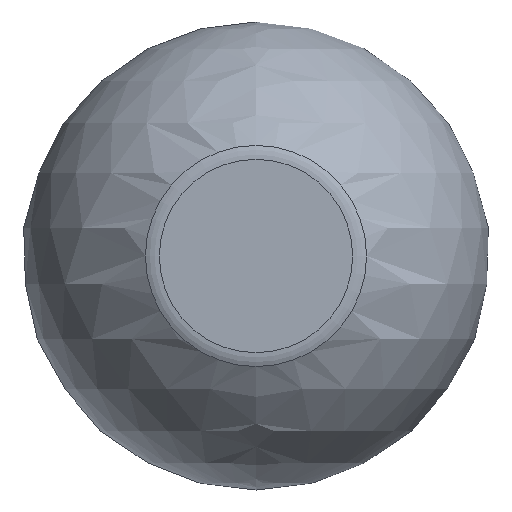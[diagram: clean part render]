
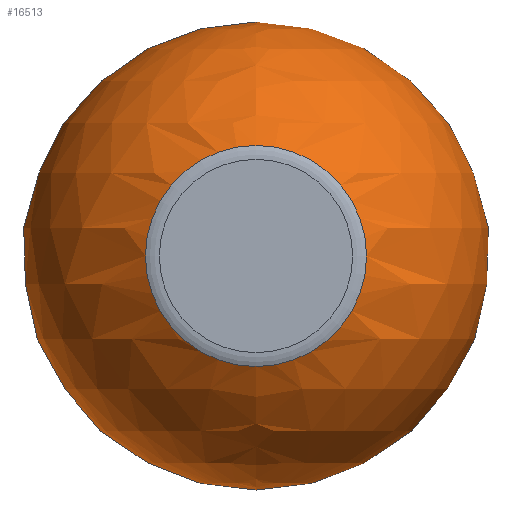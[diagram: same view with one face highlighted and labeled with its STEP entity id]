
A CAD part, left-side view. The second image highlights one B-rep face of the part: STEP entity #16513.
In plain terms, the highlighted spherical face has radius 12.179 mm.
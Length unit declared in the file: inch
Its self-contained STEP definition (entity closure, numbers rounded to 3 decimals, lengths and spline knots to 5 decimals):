
#1413=SPHERICAL_SURFACE('',#17562,0.4795);
#1536=FACE_BOUND('',#3004,.T.);
#2049=FACE_OUTER_BOUND('',#3003,.T.);
#3003=EDGE_LOOP('',(#11287,#11288,#11289,#11290,#11291,#11292,#11293));
#3004=EDGE_LOOP('',(#11294));
#6452=CIRCLE('',#17549,0.26464);
#6457=CIRCLE('',#17558,0.2265);
#6458=CIRCLE('',#17559,0.2265);
#6459=CIRCLE('',#17560,0.2265);
#6461=CIRCLE('',#17563,0.4795);
#6462=CIRCLE('',#17564,0.4795);
#6913=VERTEX_POINT('',#22125);
#6919=VERTEX_POINT('',#22142);
#6920=VERTEX_POINT('',#22143);
#6921=VERTEX_POINT('',#22145);
#6922=VERTEX_POINT('',#22150);
#6923=VERTEX_POINT('',#22152);
#8659=EDGE_CURVE('',#6913,#6913,#6452,.T.);
#8666=EDGE_CURVE('',#6919,#6920,#6457,.T.);
#8667=EDGE_CURVE('',#6921,#6919,#6458,.T.);
#8668=EDGE_CURVE('',#6920,#6921,#6459,.T.);
#8670=EDGE_CURVE('',#6922,#6920,#6461,.T.);
#8671=EDGE_CURVE('',#6921,#6923,#6462,.T.);
#11287=ORIENTED_EDGE('',*,*,#8666,.T.);
#11288=ORIENTED_EDGE('',*,*,#8670,.F.);
#11289=ORIENTED_EDGE('',*,*,#8670,.T.);
#11290=ORIENTED_EDGE('',*,*,#8668,.T.);
#11291=ORIENTED_EDGE('',*,*,#8671,.T.);
#11292=ORIENTED_EDGE('',*,*,#8671,.F.);
#11293=ORIENTED_EDGE('',*,*,#8667,.T.);
#11294=ORIENTED_EDGE('',*,*,#8659,.T.);
#16513=ADVANCED_FACE('',(#2049,#1536),#1413,.T.);
#17549=AXIS2_PLACEMENT_3D('',#22126,#18678,#18679);
#17558=AXIS2_PLACEMENT_3D('',#22144,#18698,#18699);
#17559=AXIS2_PLACEMENT_3D('',#22146,#18700,#18701);
#17560=AXIS2_PLACEMENT_3D('',#22147,#18702,#18703);
#17562=AXIS2_PLACEMENT_3D('',#22149,#18706,#18707);
#17563=AXIS2_PLACEMENT_3D('',#22151,#18708,#18709);
#17564=AXIS2_PLACEMENT_3D('',#22153,#18710,#18711);
#18678=DIRECTION('center_axis',(-1.,0.,0.));
#18679=DIRECTION('ref_axis',(0.,0.,-1.));
#18698=DIRECTION('center_axis',(1.,0.,0.));
#18699=DIRECTION('ref_axis',(0.,0.,-1.));
#18700=DIRECTION('center_axis',(1.,0.,0.));
#18701=DIRECTION('ref_axis',(0.,0.,-1.));
#18702=DIRECTION('center_axis',(1.,0.,0.));
#18703=DIRECTION('ref_axis',(0.,0.,-1.));
#18706=DIRECTION('center_axis',(0.,0.,1.));
#18707=DIRECTION('ref_axis',(1.,0.,0.));
#18708=DIRECTION('center_axis',(0.,-1.,0.));
#18709=DIRECTION('ref_axis',(-1.,0.,0.));
#18710=DIRECTION('center_axis',(0.,-1.,0.));
#18711=DIRECTION('ref_axis',(-1.,0.,0.));
#22125=CARTESIAN_POINT('',(-0.46231,0.14868,0.));
#22126=CARTESIAN_POINT('Origin',(-0.46231,0.41332,0.));
#22142=CARTESIAN_POINT('',(-1.2848,0.63982,0.));
#22143=CARTESIAN_POINT('',(-1.2848,0.41332,0.2265));
#22144=CARTESIAN_POINT('Origin',(-1.2848,0.41332,0.));
#22145=CARTESIAN_POINT('',(-1.2848,0.41332,-0.2265));
#22146=CARTESIAN_POINT('Origin',(-1.2848,0.41332,0.));
#22147=CARTESIAN_POINT('Origin',(-1.2848,0.41332,0.));
#22149=CARTESIAN_POINT('Origin',(-0.86217,0.41332,0.));
#22150=CARTESIAN_POINT('',(-0.86217,0.41332,0.4795));
#22151=CARTESIAN_POINT('Origin',(-0.86217,0.41332,0.));
#22152=CARTESIAN_POINT('',(-0.86217,0.41332,-0.4795));
#22153=CARTESIAN_POINT('Origin',(-0.86217,0.41332,0.));
